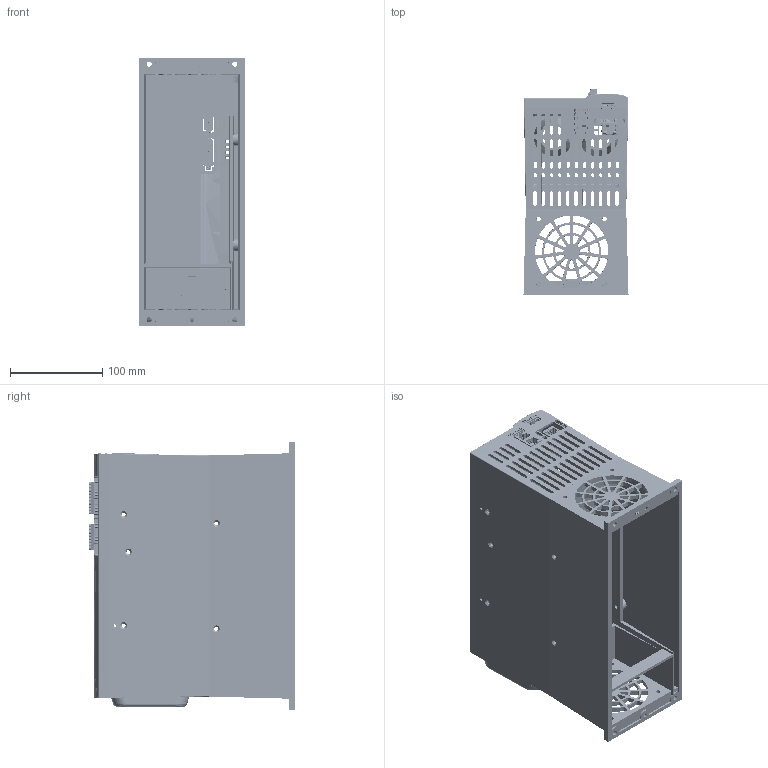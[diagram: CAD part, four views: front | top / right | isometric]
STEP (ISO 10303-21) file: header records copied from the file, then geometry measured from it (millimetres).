
FILE_DESCRIPTION(/* description */ (''),/* implementation_level */ '2;1');
FILE_NAME(/* name */ 'S:\Data\3D_drawings\working\fusion micro large frame\cad block\website\1 PHASE 200-240A.stp',/* time_stamp */ '2016-10-13T10:56:01-07:00',/* author */ ('PaulD'),/* organization */ (''),/* preprocessor_version */ 'ST-DEVELOPER v16.5',/* originating_system */ 'Autodesk Inventor 2017',/* authorisation */ '');
FILE_SCHEMA (('AUTOMOTIVE_DESIGN { 1 0 10303 214 3 1 1 }'));
Products named in the file (43): 200-240 1Ø shelled; 3001349; 3001338b_with cut out; 3001342; 1001454_3; P5; MOLEX_USB_MICRO_VERT_1051330011; P3; FCI_10118075; P1; 20020108C10_FCI; fci_10_pin_header_20020108c101a01lf; fci_10_pin_connector_20020011c101b01lf; P2; 20020108C08_FCI; fci_8_pin_header_20020108c081a01lf; fci_8_pin_connector_20020011c081b01lf; fci_8_pin_connector_20020011c081b01lf_LEFT_HALF; fci_8_pin_connector_20020011c081b01lf_RIGHT_HALF; P4; HDMI_TYPE_A_FCI_10029449-001LF; COMPOUND_2; SOLID_2; R68; 467855248; Extruded_30; U24; 467852560; Extruded_54; 1001401a; P2_1; Xport_04_housing; plastic_house; xport_04_base_sub_assembly; plastic_base; short_pins; long_pins; wiper_pins; led1; front_shield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
Assembly tree (56 placements, depth 7):
  200-240 1Ø shelled
    3001349
    3001338b_with cut out
    3001342
    1001454_3
      P5
        MOLEX_USB_MICRO_VERT_1051330011
      P3
        FCI_10118075
      P1
        20020108C10_FCI
          fci_10_pin_header_20020108c101a01lf
          fci_10_pin_connector_20020011c101b01lf
      P2
        20020108C08_FCI
          fci_8_pin_header_20020108c081a01lf
          fci_8_pin_connector_20020011c081b01lf
            fci_8_pin_connector_20020011c081b01lf_LEFT_HALF
            fci_8_pin_connector_20020011c081b01lf_RIGHT_HALF
      P4
        HDMI_TYPE_A_FCI_10029449-001LF
          COMPOUND_2
          SOLID_2
      R68
        467855248
          Extruded_30
      U24
        467852560
          Extruded_54
      1001401a
        P2_1
          Xport_04_housing
            plastic_house
            xport_04_base_sub_assembly
              plastic_base
              short_pins  x4
              long_pins  x4
              wiper_pins  x8
            led1  x2
            front_shield
            back_cover
            xport_pro_controller
            xport_04_phy
Bounding box: 113.9 x 223.49 x 290.26 mm (x, y, z)
Volume: 733908.1 mm3; surface area: 512438.7 mm2
Topology: 84 solids, 2560 shells, 10971 faces, 36182 edges, 28110 vertices
Faces by surface type: plane 8324, cylinder 1774, cone 396, bspline 315, torus 156, sphere 6
Full cylindrical faces by diameter (mm): 0.356 x1, 0.559 x8, 0.584 x8, 0.594 x1, 0.611 x1, 1 x4, 1.118 x1, 1.8 x4, 2.3 x16, 2.85 x8, 2.95 x18, 3.9 x4, 4.14 x1, 4.191 x4, 4.293 x4
Entity records: 526580 total; most frequent: CARTESIAN_POINT 213476, DIRECTION 60584, ORIENTED_EDGE 56805, EDGE_CURVE 34844, LINE 27886, VECTOR 27886, VERTEX_POINT 27385, AXIS2_PLACEMENT_3D 16349
